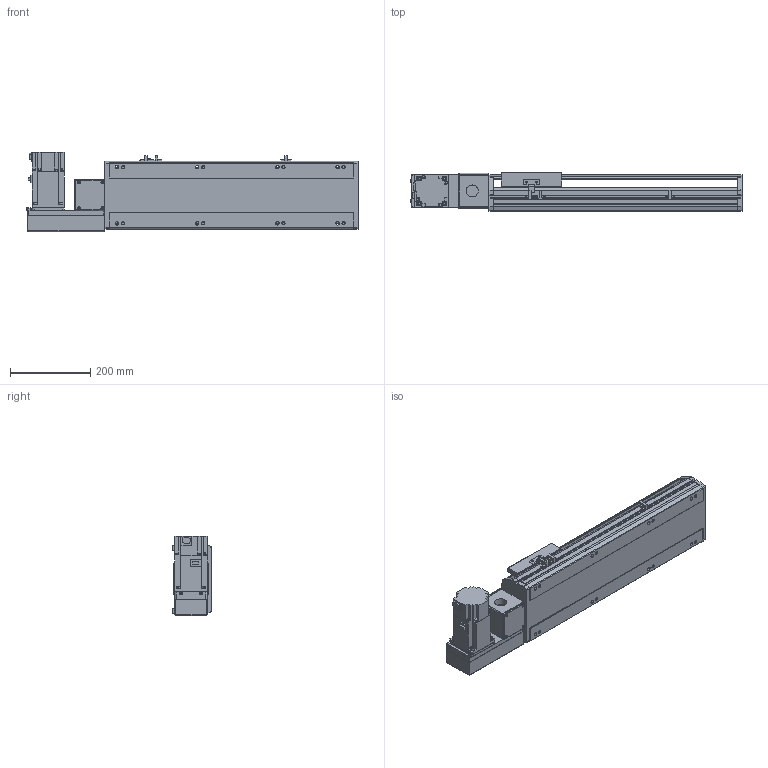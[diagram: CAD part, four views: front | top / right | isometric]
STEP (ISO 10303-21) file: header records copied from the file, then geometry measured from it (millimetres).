
FILE_DESCRIPTION( ( 'STEP AP214' ), '1' );
FILE_NAME( 'x:/temp/worker_4/temp/exporttempdir_2248_193_YvLzu/format_0/PBS170-P40-S350-L-T75-C1-N(0).stp', '2022-06-07T06:33:47', ( 'License CC BY-ND 4.0' ), ( 'CADENAS' ), ' ', 'PARTsolutions', ' ' );
FILE_SCHEMA( ( 'AUTOMOTIVE_DESIGN { 1 0 10303 214 1 1 1 1 }' ) );
Length unit declared in the file: millimetre
Products named in the file (7): PBS170-P40-S350-L-T75-C1-N(0); _PBS170-S350()_body; _PBS170T-L_motors; _T75-p1; _PBS170_sliser; _PBS170_plant; _PBS170_sensor
Assembly tree (8 placements, depth 2):
  PBS170-P40-S350-L-T75-C1-N(0)
    _PBS170-S350()_body
    _PBS170T-L_motors
    _T75-p1
    _PBS170_sliser
    _PBS170_plant
    _PBS170_sensor  x3
Bounding box: 828 x 97 x 197.3 mm (x, y, z)
Volume: 6359559.9 mm3; surface area: 881161.6 mm2
Topology: 8 solids, 8 shells, 1018 faces, 2715 edges, 1770 vertices
Faces by surface type: plane 663, cylinder 307, cone 38, sphere 8, torus 2
Full cylindrical faces by diameter (mm): 3.242 x4, 4 x2, 4.4 x4, 4.5 x6, 4.917 x4, 6 x9, 6.647 x16, 7 x2, 7.5 x4, 8 x8, 8.5 x8, 10 x4, 10.5 x8, 11 x2, 30 x2, 40 x1, 70 x1
Entity records: 37172 total; most frequent: CARTESIAN_POINT 5549, DIRECTION 5020, ORIENTED_EDGE 4788, EDGE_CURVE 2394, AXIS2_PLACEMENT_3D 1717, VERTEX_POINT 1634, LINE 1586, VECTOR 1586
